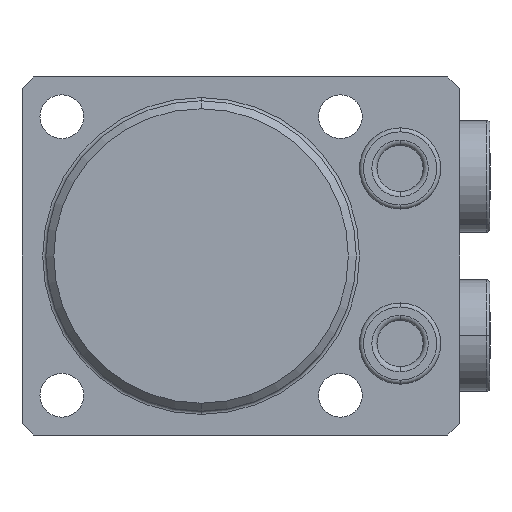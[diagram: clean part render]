
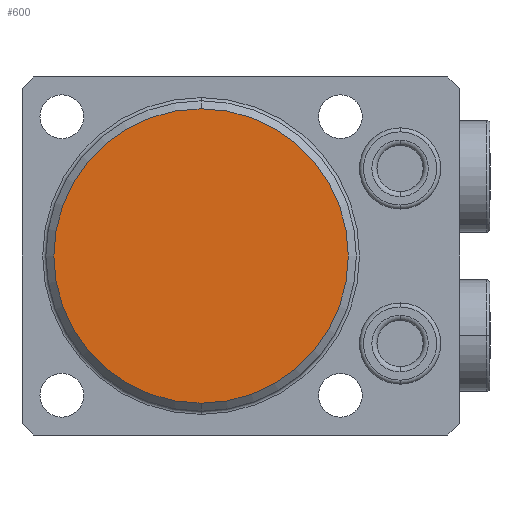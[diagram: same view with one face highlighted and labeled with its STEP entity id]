
A CAD part, front view. The second image highlights one B-rep face of the part: STEP entity #600.
In plain terms, the highlighted planar face has unit normal (0, -1, 0) as drawn and (0, 1, 0) by its records, which use the part's own axes.
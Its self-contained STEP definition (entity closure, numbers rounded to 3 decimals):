
#337=PLANE('',#5099);
#600=ADVANCED_FACE('',(#970),#337,.T.);
#970=FACE_OUTER_BOUND('',#1261,.F.);
#1261=EDGE_LOOP('',(#2932,#2933));
#2932=ORIENTED_EDGE('',*,*,#4245,.T.);
#2933=ORIENTED_EDGE('',*,*,#4130,.T.);
#3568=VERTEX_POINT('',#7765);
#3569=VERTEX_POINT('',#7766);
#4130=EDGE_CURVE('',#3568,#3569,#4572,.T.);
#4245=EDGE_CURVE('',#3569,#3568,#4601,.T.);
#4572=CIRCLE('',#5048,18.5);
#4601=CIRCLE('',#5098,18.5);
#5048=AXIS2_PLACEMENT_3D('',#7764,#6229,#6230);
#5098=AXIS2_PLACEMENT_3D('',#8075,#6388,#6389);
#5099=AXIS2_PLACEMENT_3D('',#8076,#6390,#6391);
#6229=DIRECTION('',(0.,-1.,0.));
#6230=DIRECTION('',(0.,0.,1.));
#6388=DIRECTION('',(0.,-1.,0.));
#6389=DIRECTION('',(0.,0.,1.));
#6390=DIRECTION('',(0.,1.,0.));
#6391=DIRECTION('',(0.,0.,1.));
#7764=CARTESIAN_POINT('',(0.,-33.5,0.));
#7765=CARTESIAN_POINT('',(0.,-33.5,-18.5));
#7766=CARTESIAN_POINT('',(0.,-33.5,18.5));
#8075=CARTESIAN_POINT('',(0.,-33.5,0.));
#8076=CARTESIAN_POINT('',(0.,-33.5,0.));
